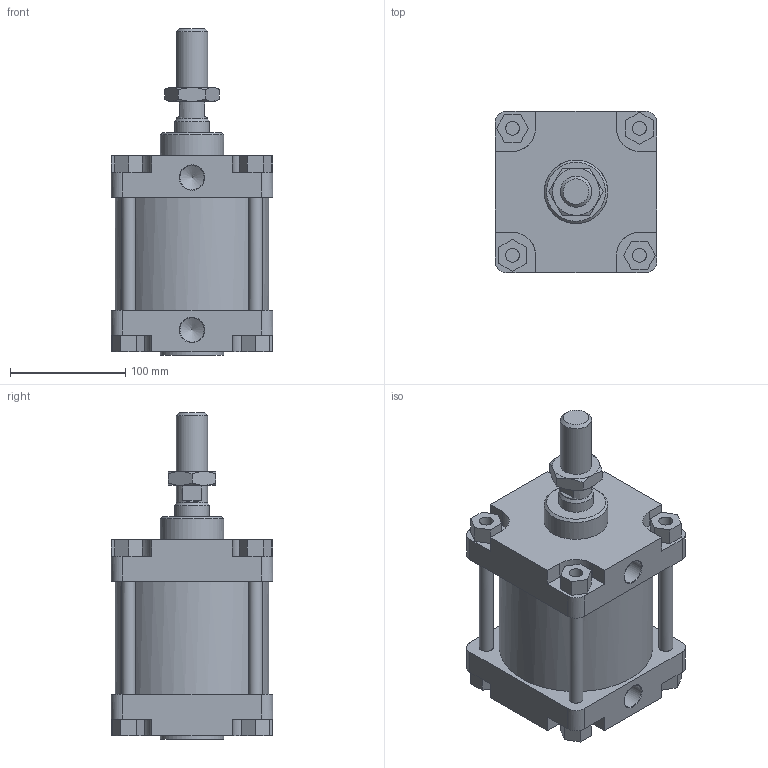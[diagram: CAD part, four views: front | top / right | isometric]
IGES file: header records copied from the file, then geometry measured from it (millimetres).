
Global section: file name: 1303_125_0025_01A; native system: Autodesk Inventor 2014; preprocessor: unknown; author: A. Manieri; date: 20161124.141349; units: millimetre
Bounding box: 140 x 140 x 283 mm (x, y, z)
Volume: 2522682.8 mm3; surface area: 316420.2 mm2
Topology: 9 solids, 9 shells, 175 faces, 440 edges, 295 vertices
Faces by surface type: bspline 175
